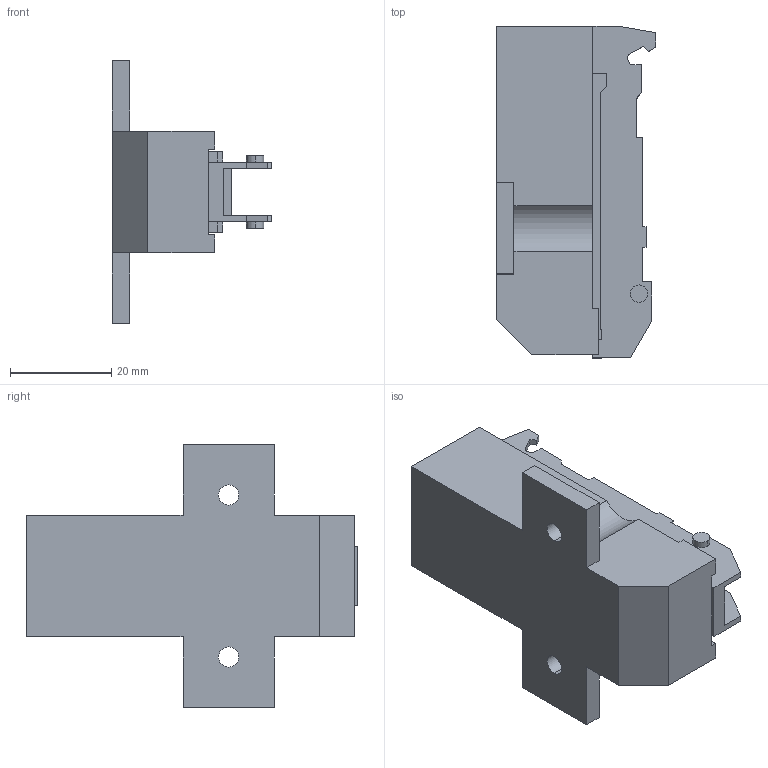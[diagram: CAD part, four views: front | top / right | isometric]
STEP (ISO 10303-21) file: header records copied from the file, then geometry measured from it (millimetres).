
FILE_DESCRIPTION (( 'STEP AP214' ), '1' );
FILE_NAME ('1D Kreuzmontageplatte_37_32_H21.STEP', '2011-08-18T14:05:23', ( '' ), ( '' ), 'SwSTEP 2.0', 'SolidWorks 2011', '' );
FILE_SCHEMA (( 'AUTOMOTIVE_DESIGN' ));
Length unit declared in the file: millimetre
Products named in the file (1): 1D Kreuzmontageplatte_37_32_H21
Bounding box: 31.5 x 65.55 x 52 mm (x, y, z)
Volume: 34371.6 mm3; surface area: 10291 mm2
Topology: 1 solids, 1 shells, 101 faces, 289 edges, 192 vertices
Faces by surface type: plane 89, cylinder 12
Entity records: 3293 total; most frequent: CARTESIAN_POINT 583, ORIENTED_EDGE 578, DIRECTION 517, EDGE_CURVE 289, VECTOR 265, LINE 265, VERTEX_POINT 192, AXIS2_PLACEMENT_3D 126
